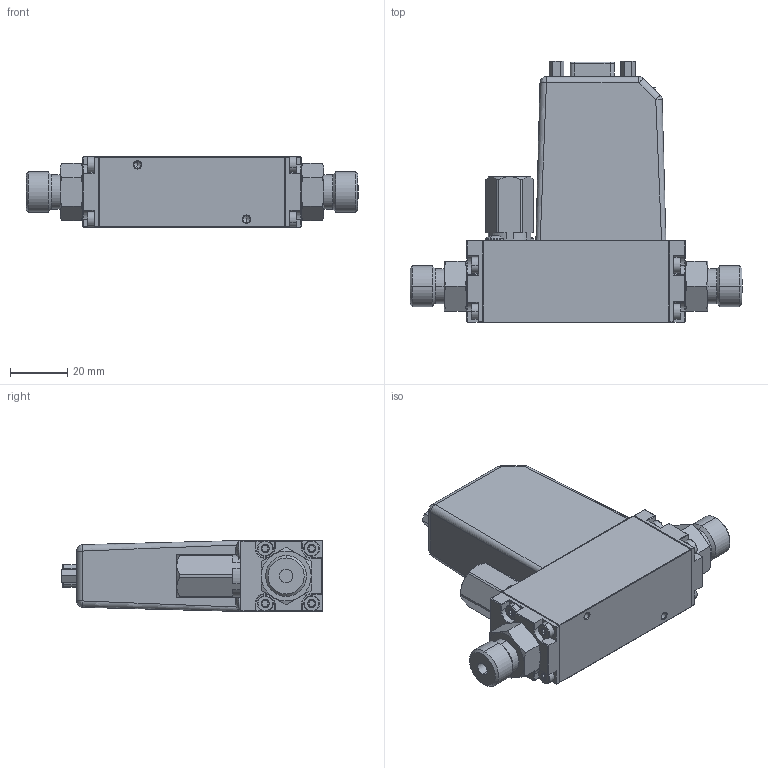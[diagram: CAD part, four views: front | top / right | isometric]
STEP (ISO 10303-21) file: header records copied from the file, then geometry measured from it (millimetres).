
FILE_DESCRIPTION (( 'STEP AP203' ), '1' );
FILE_NAME ('129275-_Publikationsmodell SFC5400_VCO.step', '2018-01-04T13:38:39', ( 'IT' ), ( '' ), 'SwSTEP 2.0', 'SolidWorks 2017', '' );
FILE_SCHEMA (( 'CONFIG_CONTROL_DESIGN' ));
Length unit declared in the file: millimetre
Products named in the file (8): 129275-_Publikationsmodell SFC5400_VCO; 129048; M03-0037_00; swa_SS-4-VCO-1-6ST_00; 129252_SFC5400_VCO; swa_SS-4-VCO-1-6ST-gekürzt_00; 129252_SFC5400_VCO_gek〉zt; 05_Zylinderschraube mit Innensechsrund ISO 14580_M03x08
Assembly tree (15 placements, depth 3):
  129275-_Publikationsmodell SFC5400_VCO
    129048
    129252_SFC5400_VCO
      M03-0037_00
      swa_SS-4-VCO-1-6ST_00
    129252_SFC5400_VCO_gek〉zt
      M03-0037_00
      swa_SS-4-VCO-1-6ST-gekürzt_00
    05_Zylinderschraube mit Innensechsrund ISO 14580_M03x08  x8
Bounding box: 116.02 x 91.2 x 24.8 mm (x, y, z)
Volume: 121329.2 mm3; surface area: 29513.7 mm2
Topology: 15 solids, 17 shells, 1401 faces, 3586 edges, 2245 vertices
Faces by surface type: plane 824, cylinder 318, cone 194, torus 41, bspline 20, sphere 4
Entity records: 34597 total; most frequent: CARTESIAN_POINT 6970, ORIENTED_EDGE 5620, DIRECTION 5364, EDGE_CURVE 2810, LINE 2170, VECTOR 2170, VERTEX_POINT 1784, AXIS2_PLACEMENT_3D 1597
